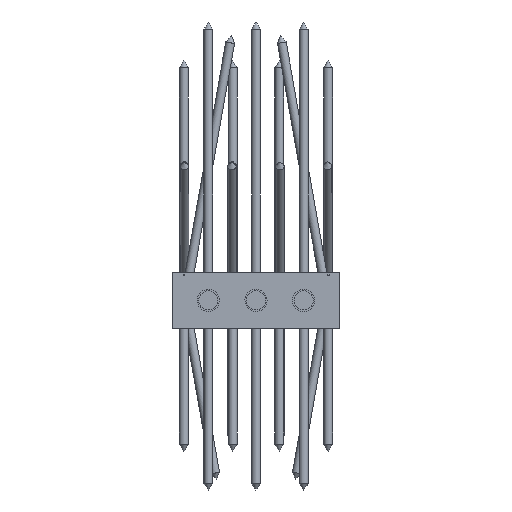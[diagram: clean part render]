
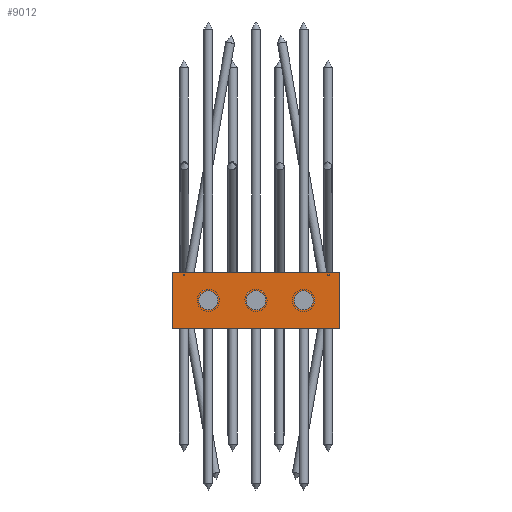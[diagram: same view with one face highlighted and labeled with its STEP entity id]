
A CAD part, front view. The second image highlights one B-rep face of the part: STEP entity #9012.
In plain terms, the highlighted planar face has unit normal (0, -1, 0) as drawn and (0, 0, 1) by its records, which use the part's own axes.
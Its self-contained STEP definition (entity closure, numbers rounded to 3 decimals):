
#910=LINE('',#18156,#1338);
#918=LINE('',#18180,#1346);
#919=LINE('',#18188,#1347);
#920=LINE('',#18189,#1348);
#1338=VECTOR('',#12072,1000.);
#1346=VECTOR('',#12092,1000.);
#1347=VECTOR('',#12101,1000.);
#1348=VECTOR('',#12102,1000.);
#4183=ORIENTED_EDGE('',*,*,#5419,.F.);
#4184=ORIENTED_EDGE('',*,*,#5420,.F.);
#4185=ORIENTED_EDGE('',*,*,#5421,.F.);
#4186=ORIENTED_EDGE('',*,*,#5422,.F.);
#4187=ORIENTED_EDGE('',*,*,#5418,.F.);
#4188=ORIENTED_EDGE('',*,*,#5423,.T.);
#4189=ORIENTED_EDGE('',*,*,#5406,.T.);
#5406=EDGE_CURVE('',#6265,#6263,#910,.T.);
#5418=EDGE_CURVE('',#6274,#6273,#918,.T.);
#5419=EDGE_CURVE('',#6275,#6275,#6492,.T.);
#5420=EDGE_CURVE('',#6276,#6276,#6493,.T.);
#5421=EDGE_CURVE('',#6277,#6277,#6494,.T.);
#5422=EDGE_CURVE('',#6273,#6263,#919,.T.);
#5423=EDGE_CURVE('',#6274,#6265,#920,.T.);
#6263=VERTEX_POINT('',#18154);
#6265=VERTEX_POINT('',#18157);
#6273=VERTEX_POINT('',#18177);
#6274=VERTEX_POINT('',#18179);
#6275=VERTEX_POINT('',#18183);
#6276=VERTEX_POINT('',#18185);
#6277=VERTEX_POINT('',#18187);
#6492=CIRCLE('',#10132,8.647);
#6493=CIRCLE('',#10133,8.647);
#6494=CIRCLE('',#10134,8.647);
#7280=EDGE_LOOP('',(#4183));
#7281=EDGE_LOOP('',(#4184));
#7282=EDGE_LOOP('',(#4185));
#7283=EDGE_LOOP('',(#4186,#4187,#4188,#4189));
#8126=FACE_BOUND('',#7280,.T.);
#8127=FACE_BOUND('',#7281,.T.);
#8128=FACE_BOUND('',#7282,.T.);
#8129=FACE_BOUND('',#7283,.T.);
#8500=PLANE('',#10131);
#9012=ADVANCED_FACE('',(#8126,#8127,#8128,#8129),#8500,.T.);
#10131=AXIS2_PLACEMENT_3D('',#18181,#12093,#12094);
#10132=AXIS2_PLACEMENT_3D('',#18182,#12095,#12096);
#10133=AXIS2_PLACEMENT_3D('',#18184,#12097,#12098);
#10134=AXIS2_PLACEMENT_3D('',#18186,#12099,#12100);
#12072=DIRECTION('',(0.,-1.,0.));
#12092=DIRECTION('',(0.,-1.,0.));
#12093=DIRECTION('',(0.,0.,1.));
#12094=DIRECTION('',(1.,0.,0.));
#12095=DIRECTION('',(0.,0.,1.));
#12096=DIRECTION('',(1.,0.,0.));
#12097=DIRECTION('',(0.,0.,1.));
#12098=DIRECTION('',(1.,0.,0.));
#12099=DIRECTION('',(0.,0.,1.));
#12100=DIRECTION('',(1.,0.,0.));
#12101=DIRECTION('',(-1.,0.,0.));
#12102=DIRECTION('',(-1.,0.,0.));
#18154=CARTESIAN_POINT('',(0.,0.,50.));
#18156=CARTESIAN_POINT('',(0.,150.,50.));
#18157=CARTESIAN_POINT('',(0.,150.,50.));
#18177=CARTESIAN_POINT('',(50.,0.,50.));
#18179=CARTESIAN_POINT('',(50.,150.,50.));
#18180=CARTESIAN_POINT('',(50.,150.,50.));
#18181=CARTESIAN_POINT('',(50.,150.,50.));
#18182=CARTESIAN_POINT('',(25.,32.,50.));
#18183=CARTESIAN_POINT('',(33.647,32.,50.));
#18184=CARTESIAN_POINT('',(25.,75.,50.));
#18185=CARTESIAN_POINT('',(33.647,75.,50.));
#18186=CARTESIAN_POINT('',(25.,118.,50.));
#18187=CARTESIAN_POINT('',(33.647,118.,50.));
#18188=CARTESIAN_POINT('',(50.,0.,50.));
#18189=CARTESIAN_POINT('',(50.,150.,50.));
